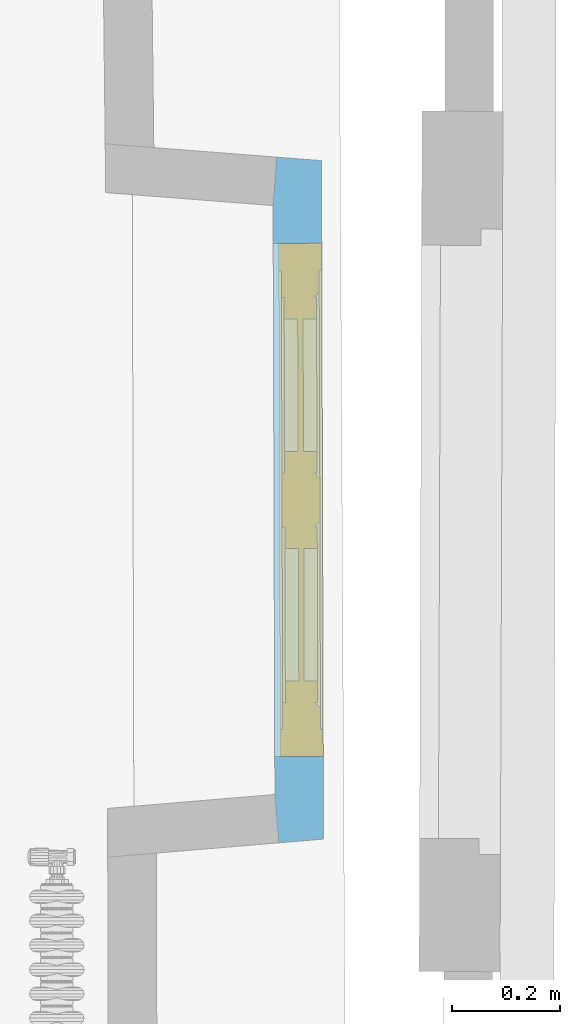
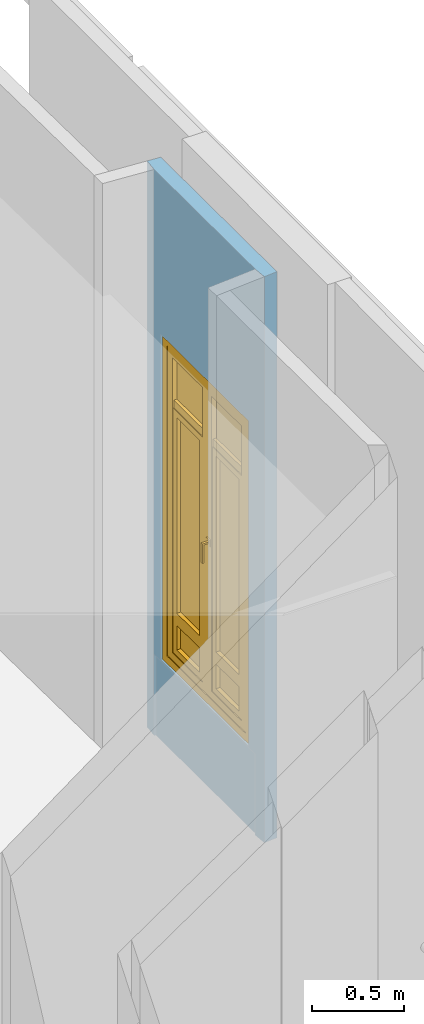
# One storey, part 49 of 66: 1 window, 2 openings, plus 1 element that does not belong to this part.
"""IFC2X3 building model written with IfcOpenShell, lengths in centimetres."""

from ifc_helpers import new_model, entity, si_unit, converted_unit, direction, frame, origin, origin_with_axes, place, context, subcontext, project, spatial, polyline, outline, extrude, faceted_brep, shape, source, transform, mapped, material, material_list, layer, layer_set, layer_usage, type_object, element, fill, save


model = new_model("IFC2X3")

# Units and contexts
model_context = context("Model", 3, precision=0.0001, world=origin(), true_north=direction((0.225632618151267, 0.974212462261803, 0.0)))
body_context = subcontext(model_context, "Body", "Model", "MODEL_VIEW")
footprint_context = subcontext(model_context, "FootPrint", "Model", "MODEL_VIEW")
profile_context = subcontext(model_context, "Profile", "Model", "MODEL_VIEW")
ifc_project = project(units=[si_unit("LENGTHUNIT", "METRE", prefix="CENTI"), si_unit("AREAUNIT", "SQUARE_METRE", prefix="CENTI"), si_unit("VOLUMEUNIT", "CUBIC_METRE", prefix="CENTI"), converted_unit("PLANEANGLEUNIT", "DEGREE", entity("IfcRatioMeasure", 0.0174532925), si_unit("PLANEANGLEUNIT", "RADIAN"), dimensions=[0, 0, 0, 0, 0, 0, 0])], contexts=[model_context])

# Site, building, storey
site_placement = place(None, origin_with_axes())
site = spatial("IfcSite", under=ifc_project, at=site_placement, Name="Default Site", CompositionType="ELEMENT")
building_placement = place(site_placement, origin_with_axes())
building = spatial("IfcBuilding", under=site, at=building_placement, Name="Default Building", CompositionType="ELEMENT")
storey_placement = place(building_placement, frame((0.0, 0.0, 477.795358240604), z_axis=(0.0, 0.0, 1.0), x_axis=(1.0, 0.0, 0.0)))
storey = spatial("IfcBuildingStorey", under=building, at=storey_placement, Name="Niveau 1", CompositionType="ELEMENT", Elevation=477.795358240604)

# Wall, openings, window
ifc_material_1 = material(Name="<aucun>")
ifc_layer = layer(ifc_material_1, 9.0)
ifc_layer_set = layer_set([ifc_layer], Name="default")
ifc_layer_usage = layer_usage(ifc_layer_set, "AXIS2", "POSITIVE", -4.5)
wall_type = type_object("IfcWallType", Name="default 90", PredefinedType="NOTDEFINED", material=ifc_layer_set)
wall_placement = place(storey_placement, frame((1113.364510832, 403.269412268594, 0.0128503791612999), z_axis=(0.0, 0.0, 1.0), x_axis=(-0.00298457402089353, 0.999995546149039, 0.0)))
wall = element("IfcWallStandardCase", 1, at=wall_placement, inside=storey, type_object=wall_type, material=ifc_layer_usage, Name="Enveloppe 597122", context=body_context, shape_type="SweptSolid", body=[
    extrude(outline(polyline([(113.264703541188, 4.50000000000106), (4.15170625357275, 4.49999999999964), (-4.81916934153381, 3.77654229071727), (-4.15170625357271, -4.49999999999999), (121.568116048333, -4.49999999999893), (122.235579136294, 3.77654229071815), (113.264703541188, 4.50000000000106)])), frame((0.0, 0.0, -8.88178419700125e-14), z_axis=(0.0, 0.0, 1.0), x_axis=(1.0, 0.0, 0.0)), (0.0, 0.0, 1.0), 376.102165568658),
])
opening_1_placement = place(wall_placement, frame((4.1517062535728, -2.27373675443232e-13, -8.88178419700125e-16), z_axis=(0.0, 0.0, 1.0), x_axis=(1.0, 8.13585310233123e-15, 0.0)))
cartesian_point_1 = entity("IfcCartesianPoint", [0.0, 0.0, 53.9])
cartesian_point_2 = entity("IfcCartesianPoint", [109.112997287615, 4.49999999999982])
element("IfcOpeningElement", 2, at=opening_1_placement, cuts=wall, Name="Baie 103169", ObjectType="Recess", shapes=[
    shape(body_context, "Body", "Brep", [faceted_brep([(-1.26850652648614e-05, 24.5000141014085, 53.8999842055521), (109.112974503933, 24.5000141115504, 53.8999842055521), (109.112974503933, 24.5000141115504, -1.92276754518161e-05), (-1.26850652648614e-05, 24.5000141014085, -1.92276754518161e-05), (-1.2683113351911e-05, 3.5000120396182, -1.92276754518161e-05), (-1.2683113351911e-05, 3.5000120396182, 53.8999842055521), (109.112974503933, 24.5000380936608, -1.92276754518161e-05), (109.11300252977, 3.50003603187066, -1.92276754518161e-05), (1.53407706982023e-05, 3.50001203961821, -1.92276754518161e-05), (109.112974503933, 24.5000380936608, 53.8999842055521), (109.112974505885, 3.50003603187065, 53.8999842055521), (109.112974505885, 3.50003603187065, -1.92276754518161e-05), (1.53407706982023e-05, 3.50001203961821, 53.8999842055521), (109.11300252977, 3.50003603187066, 53.8999842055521), (109.11300252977, 3.50001204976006, -1.92276754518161e-05), (109.11300252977, 3.50001204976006, 53.8999842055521)], [[[0, 1, 2, 3]], [[3, 4, 5, 0]], [[6, 7, 8, 3]], [[9, 10, 11, 6]], [[0, 12, 13, 9]], [[12, 8, 14, 15]]])]),
    shape(profile_context, "Profile", "GeometricCurveSet", [entity("IfcGeometricCurveSet", [entity("IfcPolyline", [cartesian_point_1, entity("IfcCartesianPoint", [0.0, 0.0, 0.0]), entity("IfcCartesianPoint", [109.112997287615, 0.0, 0.0]), entity("IfcCartesianPoint", [109.112997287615, 0.0, 53.9]), cartesian_point_1])])]),
    shape(footprint_context, "FootPrint", "GeometricCurveSet", [entity("IfcGeometricCurveSet", [entity("IfcPolyline", [cartesian_point_2, entity("IfcCartesianPoint", [0.0, 4.49999999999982]), entity("IfcCartesianPoint", [-8.88178419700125e-14, -4.49999999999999]), entity("IfcCartesianPoint", [109.112997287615, -4.49999999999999]), cartesian_point_2])])]),
])
opening_2_placement = place(wall_placement, frame((11.1517062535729, -2.27373675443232e-13, 54.8871496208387), z_axis=(0.0, 0.0, 1.0), x_axis=(1.0, 8.13585310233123e-15, 0.0)))
cartesian_point_3 = entity("IfcCartesianPoint", [0.0, 1.77635683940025e-13, 216.0])
cartesian_point_4 = entity("IfcCartesianPoint", [95.1129972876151, 4.49999999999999])
opening_2 = element("IfcOpeningElement", 3, at=opening_2_placement, cuts=wall, Name="4294966469_11", ObjectType="Opening", shapes=[
    shape(body_context, "Body", "SweptSolid", [extrude(outline(polyline([(0.0, 216.0), (0.0, 0.0), (95.1129972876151, 0.0), (95.1129972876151, 216.0), (0.0, 216.0)])), frame((0.0, 14.5, 0.0), z_axis=(0.0, -1.0, 0.0), x_axis=(1.0, 0.0, 0.0)), (0.0, 0.0, 1.0), 29.0)]),
    shape(profile_context, "Profile", "GeometricCurveSet", [entity("IfcGeometricCurveSet", [entity("IfcPolyline", [cartesian_point_3, entity("IfcCartesianPoint", [0.0, 1.77635683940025e-13, 0.0]), entity("IfcCartesianPoint", [95.112997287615, 1.77635683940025e-13, 0.0]), entity("IfcCartesianPoint", [95.112997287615, 1.77635683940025e-13, 216.0]), cartesian_point_3])])]),
    shape(footprint_context, "FootPrint", "GeometricCurveSet", [entity("IfcGeometricCurveSet", [entity("IfcPolyline", [cartesian_point_4, entity("IfcCartesianPoint", [0.0, 4.50000000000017]), entity("IfcCartesianPoint", [-8.88178419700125e-14, -4.49999999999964]), entity("IfcCartesianPoint", [95.112997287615, -4.49999999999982]), cartesian_point_4])])]),
])
ifc_material_2 = material(Name="Transparent")
ifc_material_3 = material(Name="Blanc trafic")
ifc_material_4 = material(Name="Aluminium satiné")
ifc_material_5 = material(Name="Blanc trafic")
ifc_material_list = material_list([ifc_material_2, ifc_material_3, ifc_material_4, ifc_material_5])
window_style = type_object("IfcWindowStyle", Name="FN[R] 2VB[2V] MM", ConstructionType="NOTDEFINED", OperationType="NOTDEFINED", ParameterTakesPrecedence=False, Sizeable=False, material=ifc_material_list)
shared_shape = source(origin_with_axes(), body_context, "Body", "Brep", [
    faceted_brep([(-42.5564974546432, 210.999989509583, -3.99999991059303), (-42.5564974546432, 210.999989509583, 3.99999991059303), (-42.5564974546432, 5.00000007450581, 3.99999991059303), (-42.5564974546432, 5.00000007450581, -3.99999991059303), (-47.5564986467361, 216.000008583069, 3.99999991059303), (-47.5564986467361, 0.0, 3.99999991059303), (-47.5564986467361, 216.000008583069, -3.99999991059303), (-47.5564986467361, 0.0, -3.99999991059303), (42.5564974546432, 5.0000000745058, 3.99999991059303), (42.5564974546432, 5.0000000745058, -3.99999991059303), (47.5564986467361, 0.0, 3.99999991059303), (42.5564974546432, 5.00000007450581, 3.99999991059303), (47.5564986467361, 0.0, -3.99999991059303), (42.5564974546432, 5.00000007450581, -3.99999991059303), (42.5564974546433, 210.999989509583, 3.99999991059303), (42.5564974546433, 210.999989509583, -3.99999991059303), (47.5564986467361, 216.000008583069, 3.99999991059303), (47.5564986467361, 216.000008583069, -3.99999991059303)], [[[0, 1, 2, 3]], [[1, 4, 5, 2]], [[4, 6, 7, 5]], [[6, 0, 3, 7]], [[3, 2, 8, 9]], [[2, 5, 10, 11]], [[5, 7, 12, 10]], [[7, 3, 13, 12]], [[13, 11, 14, 15]], [[11, 10, 16, 14]], [[10, 12, 17, 16]], [[12, 13, 15, 17]], [[15, 14, 1, 0]], [[14, 16, 4, 1]], [[16, 17, 6, 4]], [[17, 15, 0, 6]]]),
    faceted_brep([(-38.5564982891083, 206.99999332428, -3.50000001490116), (-37.5564987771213, 205.999994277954, -2.50000050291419), (-37.5564987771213, 10.0000001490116, -2.50000050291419), (-38.5564982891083, 9.00000035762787, -3.50000001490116), (-37.5564992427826, 205.999994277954, -2.5000000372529), (-37.5564992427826, 205.999994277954, 3.50000001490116), (-37.5564992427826, 10.0000001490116, 3.50000001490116), (-37.5564992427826, 10.0000001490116, -2.5000000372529), (-42.5564974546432, 210.999989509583, 3.50000001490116), (-42.5564974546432, 5.00000007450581, 3.50000001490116), (-42.5564974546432, 210.999989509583, -3.50000001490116), (-42.5564974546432, 5.00000007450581, -3.50000001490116), (-37.5564992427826, 10.0000002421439, -2.50000013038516), (-5.00000007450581, 10.0000002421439, -2.50000013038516), (-3.99999991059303, 9.00000035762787, -3.50000001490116), (-5.00000007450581, 10.0000001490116, 3.50000001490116), (-5.00000007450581, 10.0000001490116, -2.5000000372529), (1.66533453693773e-14, 5.00000007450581, 3.50000001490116), (1.66533453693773e-14, 5.00000007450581, -3.50000001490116), (-4.99999998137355, 10.0000001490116, -2.49999994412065), (-4.99999998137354, 205.999994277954, -2.49999994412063), (-3.99999991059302, 206.99999332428, -3.50000001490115), (-5.00000007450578, 205.999994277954, 3.50000001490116), (-5.00000007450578, 205.999994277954, -2.5000000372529), (2.77555756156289e-14, 210.999989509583, 3.50000001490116), (-5.00000007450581, 205.999994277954, 3.50000001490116), (2.77555748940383e-14, 210.999989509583, -3.50000001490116), (2.77555748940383e-14, 210.999989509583, 3.50000001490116), (-3.99999991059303, 206.99999332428, -3.50000001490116), (2.77555756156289e-14, 210.999989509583, -3.50000001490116), (-5.00000007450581, 205.999993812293, -2.50000050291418), (-37.5564992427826, 205.999993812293, -2.50000050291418), (-5.00000007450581, 205.999994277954, -2.5000000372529)], [[[0, 1, 2, 3]], [[4, 5, 6, 7]], [[5, 8, 9, 6]], [[8, 10, 11, 9]], [[10, 0, 3, 11]], [[3, 12, 13, 14]], [[7, 6, 15, 16]], [[6, 9, 17, 15]], [[9, 11, 18, 17]], [[11, 3, 14, 18]], [[14, 19, 20, 21]], [[16, 15, 22, 23]], [[15, 17, 24, 25]], [[17, 18, 26, 27]], [[18, 14, 28, 29]], [[28, 30, 31, 0]], [[32, 25, 5, 4]], [[25, 24, 8, 5]], [[24, 29, 10, 8]], [[29, 28, 0, 10]]]),
    faceted_brep([(-5.00000007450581, 205.999994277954, -0.499999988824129), (-5.00000007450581, 177.349996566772, -0.499999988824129), (-37.5564992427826, 177.349996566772, -0.499999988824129), (-37.5564992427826, 205.999994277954, -0.499999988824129), (-37.5564992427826, 205.999994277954, 0.499999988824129), (-37.5564992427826, 177.349996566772, 0.499999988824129), (-5.00000007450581, 177.349996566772, 0.499999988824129), (-5.00000007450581, 205.999994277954, 0.499999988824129)], [[[0, 1, 2, 3]], [[4, 5, 6, 7]], [[3, 2, 5, 4]], [[2, 1, 6, 5]], [[1, 0, 7, 6]], [[0, 3, 4, 7]]]),
    faceted_brep([(-5.00000007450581, 172.350001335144, 2.5000000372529), (-5.00000007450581, 172.350001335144, -2.5000000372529), (-5.00000007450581, 177.349996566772, -2.5000000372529), (-5.00000007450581, 177.349996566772, 2.5000000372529), (-37.5564992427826, 177.349996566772, 2.5000000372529), (-37.5564992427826, 177.349996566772, -2.5000000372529), (-37.5564992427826, 172.350001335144, -2.5000000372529), (-37.5564992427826, 172.350001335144, 2.5000000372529)], [[[0, 1, 2, 3]], [[4, 5, 6, 7]], [[3, 2, 5, 4]], [[2, 1, 6, 5]], [[1, 0, 7, 6]], [[0, 3, 4, 7]]]),
    faceted_brep([(-33.5565000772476, 168.350005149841, -2.99999993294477), (-33.5565000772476, 168.350005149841, 2.99999993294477), (-33.5565000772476, 38.3525013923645, 2.99999993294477), (-33.5565000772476, 38.3525013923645, -2.99999993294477), (-37.5564992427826, 172.350001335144, 2.99999993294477), (-37.5564992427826, 34.3524992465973, 2.99999993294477), (-37.5564992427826, 172.350001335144, -2.99999993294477), (-37.5564992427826, 34.3524992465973, -2.99999993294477), (-9.00000035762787, 38.3525013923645, 2.99999993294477), (-9.00000035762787, 38.3525013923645, -2.99999993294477), (-5.00000007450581, 34.3524992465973, 2.99999993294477), (-5.00000007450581, 34.3524992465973, -2.99999993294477), (-9.00000035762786, 168.350005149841, 2.99999993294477), (-9.00000035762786, 168.350005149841, -2.99999993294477), (-5.00000007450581, 172.350001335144, 2.99999993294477), (-9.00000035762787, 168.350005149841, 2.99999993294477), (-5.0000000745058, 172.350001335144, -2.99999993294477), (-5.0000000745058, 172.350001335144, 2.99999993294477), (-9.00000035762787, 168.350005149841, -2.99999993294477), (-5.00000007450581, 172.350001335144, -2.99999993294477)], [[[0, 1, 2, 3]], [[1, 4, 5, 2]], [[4, 6, 7, 5]], [[6, 0, 3, 7]], [[3, 2, 8, 9]], [[2, 5, 10, 8]], [[5, 7, 11, 10]], [[7, 3, 9, 11]], [[9, 8, 12, 13]], [[8, 10, 14, 15]], [[10, 11, 16, 17]], [[11, 9, 18, 19]], [[18, 15, 1, 0]], [[15, 14, 4, 1]], [[14, 19, 6, 4]], [[19, 18, 0, 6]]]),
    faceted_brep([(-9.00000035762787, 168.350005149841, -0.499999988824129), (-9.00000035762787, 38.3525013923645, -0.499999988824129), (-33.5565000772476, 38.3525013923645, -0.499999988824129), (-33.5565000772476, 168.350005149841, -0.499999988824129), (-33.5565000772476, 168.350005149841, 0.499999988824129), (-33.5565000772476, 38.3525013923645, 0.499999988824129), (-9.00000035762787, 38.3525013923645, 0.499999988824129), (-9.00000035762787, 168.350005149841, 0.499999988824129), (-9.00000035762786, 168.350005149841, -0.499999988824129), (-9.00000035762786, 168.350005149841, 0.499999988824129)], [[[0, 1, 2, 3]], [[4, 5, 6, 7]], [[3, 2, 5, 4]], [[2, 1, 6, 5]], [[1, 8, 9, 6]], [[0, 3, 4, 7]]]),
    faceted_brep([(-33.5565000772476, 30.3525000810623, -2.99999993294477), (-33.5565000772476, 30.3525000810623, 2.99999993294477), (-33.5565000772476, 14.0000000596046, 2.99999993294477), (-33.5565000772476, 14.0000000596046, -2.99999993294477), (-37.5564992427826, 34.3524992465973, 2.99999993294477), (-37.5564992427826, 10.0000001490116, 2.99999993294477), (-37.5564992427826, 34.3524992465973, -2.99999993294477), (-37.5564992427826, 10.0000001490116, -2.99999993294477), (-9.00000035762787, 14.0000000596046, 2.99999993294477), (-9.00000035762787, 14.0000000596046, -2.99999993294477), (-5.00000007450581, 10.0000001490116, 2.99999993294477), (-5.00000007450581, 10.0000001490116, -2.99999993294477), (-9.00000035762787, 30.3525000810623, 2.99999993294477), (-9.00000035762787, 30.3525000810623, -2.99999993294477), (-5.00000007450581, 34.3524992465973, 2.99999993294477), (-5.00000007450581, 34.3524992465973, -2.99999993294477)], [[[0, 1, 2, 3]], [[1, 4, 5, 2]], [[4, 6, 7, 5]], [[6, 0, 3, 7]], [[3, 2, 8, 9]], [[2, 5, 10, 8]], [[5, 7, 11, 10]], [[7, 3, 9, 11]], [[9, 8, 12, 13]], [[8, 10, 14, 12]], [[10, 11, 15, 14]], [[11, 9, 13, 15]], [[13, 12, 1, 0]], [[12, 14, 4, 1]], [[14, 15, 6, 4]], [[15, 13, 0, 6]]]),
    faceted_brep([(-9.00000035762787, 30.3525000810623, -0.499999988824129), (-9.00000035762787, 14.0000000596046, -0.499999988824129), (-33.5565000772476, 14.0000000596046, -0.499999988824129), (-33.5565000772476, 30.3525000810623, -0.499999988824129), (-33.5565000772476, 30.3525000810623, 0.499999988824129), (-33.5565000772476, 14.0000000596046, 0.499999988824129), (-9.00000035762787, 14.0000000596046, 0.499999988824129), (-9.00000035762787, 30.3525000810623, 0.499999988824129)], [[[0, 1, 2, 3]], [[4, 5, 6, 7]], [[3, 2, 5, 4]], [[2, 1, 6, 5]], [[1, 0, 7, 6]], [[0, 3, 4, 7]]]),
    faceted_brep([(3.99999991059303, 206.99999332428, -3.50000001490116), (4.99999998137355, 205.999994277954, -2.49999994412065), (4.99999998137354, 10.0000001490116, -2.49999994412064), (3.99999991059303, 9.00000035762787, -3.50000001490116), (5.00000007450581, 205.999994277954, -2.5000000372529), (5.00000007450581, 205.999994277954, 3.50000001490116), (5.0000000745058, 10.0000001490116, 3.50000001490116), (5.0000000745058, 10.0000001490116, -2.5000000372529), (2.77555756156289e-14, 210.999989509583, 3.50000001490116), (1.66533453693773e-14, 5.00000007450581, 3.50000001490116), (5.00000007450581, 10.0000001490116, 3.50000001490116), (2.77555756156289e-14, 210.999989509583, -3.50000001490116), (1.66533460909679e-14, 5.00000007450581, -3.50000001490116), (1.66533460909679e-14, 5.00000007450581, 3.50000001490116), (1.66533453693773e-14, 5.00000007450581, -3.50000001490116), (5.00000007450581, 10.0000002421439, -2.50000013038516), (37.5564992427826, 10.0000002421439, -2.50000013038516), (38.5564982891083, 9.00000035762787, -3.50000001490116), (5.00000007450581, 10.0000001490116, -2.5000000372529), (37.5564992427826, 10.0000001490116, 3.50000001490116), (37.5564992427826, 10.0000001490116, -2.5000000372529), (42.5564974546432, 5.00000007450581, 3.50000001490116), (42.5564974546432, 5.00000007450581, -3.50000001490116), (37.5564987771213, 10.0000001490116, -2.50000050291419), (37.5564987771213, 205.999994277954, -2.50000050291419), (38.5564982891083, 206.99999332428, -3.50000001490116), (37.5564992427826, 205.999994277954, 3.50000001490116), (37.5564992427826, 205.999994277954, -2.5000000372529), (42.5564974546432, 210.999989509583, 3.50000001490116), (42.5564974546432, 210.999989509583, -3.50000001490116), (37.5564992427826, 205.999993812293, -2.50000050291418), (5.00000007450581, 205.999993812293, -2.50000050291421), (3.99999991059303, 206.99999332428, -3.50000001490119)], [[[0, 1, 2, 3]], [[4, 5, 6, 7]], [[5, 8, 9, 10]], [[8, 11, 12, 13]], [[11, 0, 3, 14]], [[3, 15, 16, 17]], [[18, 10, 19, 20]], [[10, 9, 21, 19]], [[9, 14, 22, 21]], [[14, 3, 17, 22]], [[17, 23, 24, 25]], [[20, 19, 26, 27]], [[19, 21, 28, 26]], [[21, 22, 29, 28]], [[22, 17, 25, 29]], [[25, 30, 31, 32]], [[27, 26, 5, 4]], [[26, 28, 8, 5]], [[28, 29, 11, 8]], [[29, 25, 0, 11]]]),
    faceted_brep([(4.50000017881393, 110.000002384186, 3.50000001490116), (4.50000017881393, 105.999994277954, 3.50000001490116), (0.499999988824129, 105.999994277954, 3.50000001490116), (0.499999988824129, 110.000002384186, 3.50000001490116), (0.499999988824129, 110.000002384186, 4.30000014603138), (0.499999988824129, 105.999994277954, 4.30000014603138), (4.50000017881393, 105.999994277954, 4.30000014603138), (4.50000017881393, 110.000002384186, 4.30000014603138)], [[[0, 1, 2, 3]], [[4, 5, 6, 7]], [[3, 2, 5, 4]], [[2, 1, 6, 5]], [[1, 0, 7, 6]], [[0, 3, 4, 7]]]),
    faceted_brep([(3.24999988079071, 108.500003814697, 4.30000014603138), (3.24999988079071, 107.500004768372, 4.30000014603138), (1.75000000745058, 107.500004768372, 4.30000014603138), (1.75000000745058, 108.500003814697, 4.30000014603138), (1.75000000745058, 108.500003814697, 8.29999968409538), (1.75000000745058, 107.500004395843, 7.30000026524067), (3.24999988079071, 107.500004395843, 7.30000026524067), (3.24999988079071, 108.500003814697, 8.29999968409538), (1.75000000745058, 107.500004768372, 7.29999989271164), (3.24999988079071, 107.500004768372, 7.29999989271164)], [[[0, 1, 2, 3]], [[4, 5, 6, 7]], [[3, 2, 8, 4]], [[2, 1, 9, 8]], [[1, 0, 7, 9]], [[0, 3, 4, 7]]]),
    faceted_brep([(3.24999988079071, 108.500003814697, 8.29999968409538), (3.24999988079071, 107.500004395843, 7.30000026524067), (1.75000000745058, 107.500004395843, 7.30000026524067), (1.75000000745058, 108.500003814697, 8.29999968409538), (1.75000000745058, 95.4999983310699, 8.29999968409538), (1.75000000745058, 95.4999983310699, 7.29999989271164), (3.24999988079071, 95.4999983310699, 7.29999989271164), (3.24999988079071, 95.4999983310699, 8.29999968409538), (1.75000000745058, 107.500004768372, 7.29999989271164), (3.24999988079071, 107.500004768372, 7.29999989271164)], [[[0, 1, 2, 3]], [[4, 5, 6, 7]], [[3, 8, 5, 4]], [[8, 9, 6, 5]], [[9, 0, 7, 6]], [[0, 3, 4, 7]]]),
    faceted_brep([(37.5564992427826, 205.999994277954, -0.499999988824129), (37.5564992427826, 177.349996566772, -0.499999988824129), (5.00000007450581, 177.349996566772, -0.499999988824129), (5.00000007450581, 205.999994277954, -0.499999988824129), (5.00000007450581, 205.999994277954, 0.499999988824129), (5.00000007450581, 177.349996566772, 0.499999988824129), (37.5564992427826, 177.349996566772, 0.499999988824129), (37.5564992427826, 205.999994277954, 0.499999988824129)], [[[0, 1, 2, 3]], [[4, 5, 6, 7]], [[3, 2, 5, 4]], [[2, 1, 6, 5]], [[1, 0, 7, 6]], [[0, 3, 4, 7]]]),
    faceted_brep([(37.5564992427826, 172.350001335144, 2.5000000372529), (37.5564992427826, 172.350001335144, -2.5000000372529), (37.5564992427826, 177.349996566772, -2.5000000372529), (37.5564992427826, 177.349996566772, 2.5000000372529), (5.00000007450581, 177.349996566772, 2.5000000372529), (5.00000007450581, 177.349996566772, -2.5000000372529), (5.00000007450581, 172.350001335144, -2.5000000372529), (5.00000007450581, 172.350001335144, 2.5000000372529)], [[[0, 1, 2, 3]], [[4, 5, 6, 7]], [[3, 2, 5, 4]], [[2, 1, 6, 5]], [[1, 0, 7, 6]], [[0, 3, 4, 7]]]),
    faceted_brep([(9.00000035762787, 168.350005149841, -2.99999993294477), (9.00000035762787, 168.350005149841, 2.99999993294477), (9.00000035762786, 38.3525013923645, 2.99999993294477), (9.00000035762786, 38.3525013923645, -2.99999993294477), (5.00000007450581, 172.350001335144, 2.99999993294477), (5.00000007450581, 34.3524992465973, 2.99999993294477), (9.00000035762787, 38.3525013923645, 2.99999993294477), (5.00000007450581, 172.350001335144, -2.99999993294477), (5.0000000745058, 34.3524992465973, -2.99999993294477), (5.0000000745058, 34.3524992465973, 2.99999993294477), (9.00000035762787, 38.3525013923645, -2.99999993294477), (5.00000007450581, 34.3524992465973, -2.99999993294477), (33.5565000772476, 38.3525013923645, 2.99999993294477), (33.5565000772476, 38.3525013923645, -2.99999993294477), (37.5564992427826, 34.3524992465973, 2.99999993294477), (37.5564992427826, 34.3524992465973, -2.99999993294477), (33.5565000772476, 168.350005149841, 2.99999993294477), (33.5565000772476, 168.350005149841, -2.99999993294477), (37.5564992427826, 172.350001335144, 2.99999993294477), (37.5564992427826, 172.350001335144, -2.99999993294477)], [[[0, 1, 2, 3]], [[1, 4, 5, 6]], [[4, 7, 8, 9]], [[7, 0, 10, 11]], [[10, 6, 12, 13]], [[6, 5, 14, 12]], [[5, 11, 15, 14]], [[11, 10, 13, 15]], [[13, 12, 16, 17]], [[12, 14, 18, 16]], [[14, 15, 19, 18]], [[15, 13, 17, 19]], [[17, 16, 1, 0]], [[16, 18, 4, 1]], [[18, 19, 7, 4]], [[19, 17, 0, 7]]]),
    faceted_brep([(33.5565000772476, 168.350005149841, -0.499999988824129), (33.5565000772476, 38.3525013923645, -0.499999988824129), (9.00000035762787, 38.3525013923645, -0.499999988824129), (9.00000035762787, 168.350005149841, -0.499999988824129), (9.00000035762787, 168.350005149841, 0.499999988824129), (9.00000035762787, 38.3525013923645, 0.499999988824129), (33.5565000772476, 38.3525013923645, 0.499999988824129), (33.5565000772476, 168.350005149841, 0.499999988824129), (9.00000035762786, 38.3525013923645, -0.499999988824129), (9.00000035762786, 38.3525013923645, 0.499999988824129)], [[[0, 1, 2, 3]], [[4, 5, 6, 7]], [[3, 8, 9, 4]], [[2, 1, 6, 5]], [[1, 0, 7, 6]], [[0, 3, 4, 7]]]),
    faceted_brep([(9.00000035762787, 30.3525000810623, -2.99999993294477), (9.00000035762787, 30.3525000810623, 2.99999993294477), (9.00000035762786, 14.0000000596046, 2.99999993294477), (9.00000035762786, 14.0000000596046, -2.99999993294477), (5.00000007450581, 34.3524992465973, 2.99999993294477), (5.00000007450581, 10.0000001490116, 2.99999993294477), (9.00000035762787, 14.0000000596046, 2.99999993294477), (5.00000007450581, 34.3524992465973, -2.99999993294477), (5.0000000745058, 10.0000001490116, -2.99999993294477), (5.0000000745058, 10.0000001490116, 2.99999993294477), (9.00000035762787, 14.0000000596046, -2.99999993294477), (5.00000007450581, 10.0000001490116, -2.99999993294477), (33.5565000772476, 14.0000000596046, 2.99999993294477), (33.5565000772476, 14.0000000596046, -2.99999993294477), (37.5564992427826, 10.0000001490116, 2.99999993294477), (37.5564992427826, 10.0000001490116, -2.99999993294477), (33.5565000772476, 30.3525000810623, 2.99999993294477), (33.5565000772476, 30.3525000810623, -2.99999993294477), (37.5564992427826, 34.3524992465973, 2.99999993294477), (37.5564992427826, 34.3524992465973, -2.99999993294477)], [[[0, 1, 2, 3]], [[1, 4, 5, 6]], [[4, 7, 8, 9]], [[7, 0, 10, 11]], [[10, 6, 12, 13]], [[6, 5, 14, 12]], [[5, 11, 15, 14]], [[11, 10, 13, 15]], [[13, 12, 16, 17]], [[12, 14, 18, 16]], [[14, 15, 19, 18]], [[15, 13, 17, 19]], [[17, 16, 1, 0]], [[16, 18, 4, 1]], [[18, 19, 7, 4]], [[19, 17, 0, 7]]]),
    faceted_brep([(33.5565000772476, 30.3525000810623, -0.499999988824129), (33.5565000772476, 14.0000000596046, -0.499999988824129), (9.00000035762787, 14.0000000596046, -0.499999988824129), (9.00000035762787, 30.3525000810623, -0.499999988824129), (9.00000035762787, 30.3525000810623, 0.499999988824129), (9.00000035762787, 14.0000000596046, 0.499999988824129), (33.5565000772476, 14.0000000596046, 0.499999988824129), (33.5565000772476, 30.3525000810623, 0.499999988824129)], [[[0, 1, 2, 3]], [[4, 5, 6, 7]], [[3, 2, 5, 4]], [[2, 1, 6, 5]], [[1, 0, 7, 6]], [[0, 3, 4, 7]]]),
])
window_placement = place(opening_2_placement, frame((-5.6843418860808e-14, -4.49999999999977, -7.105427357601e-15), z_axis=(0.0, 0.0, 1.0), x_axis=(1.0, 0.0, 0.0)))
window = element("IfcWindow", 4, at=window_placement, inside=storey, type_object=window_style, material=ifc_material_list, Name="Fenêtre 103166", OverallHeight=216.0, OverallWidth=95.1129972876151, context=body_context, shape_type="MappedRepresentation", body=[
    mapped(shared_shape, transform((47.5564986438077, 3.99999999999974, 0.0), x_axis=(-1.0, 0.0, 0.0), y_axis=(0.0, 0.0, 1.0), z_axis=(0.0, 1.0, 0.0), scale=1.0, scale2=1.0, scale3=1.0, uniform=False)),
])
fill(opening_2, window)

save(model, "model.ifc")
